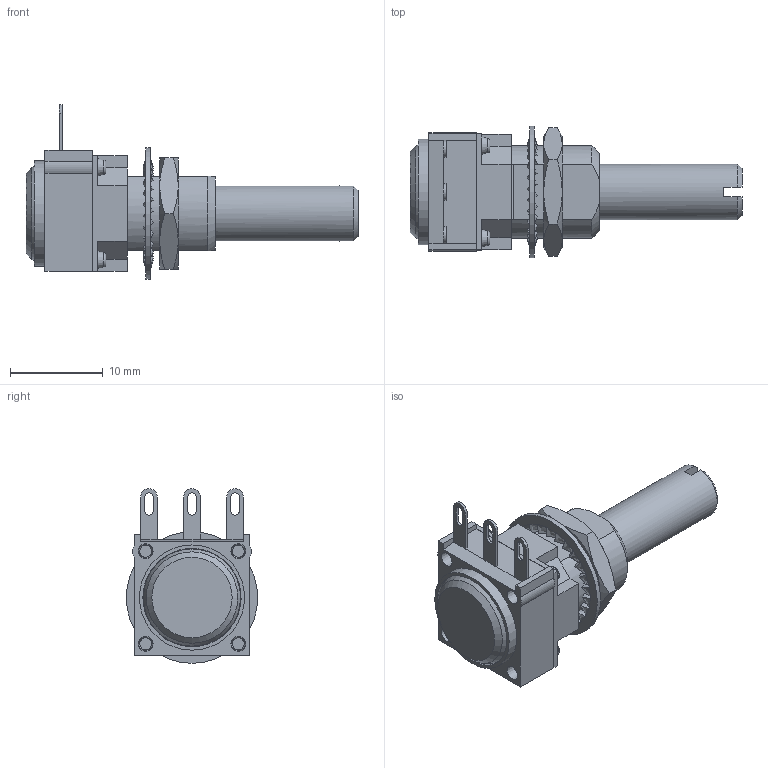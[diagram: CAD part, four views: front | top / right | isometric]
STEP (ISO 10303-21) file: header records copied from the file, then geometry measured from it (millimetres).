
FILE_DESCRIPTION( ( 'Unknown' ), '1' );
FILE_NAME( 'I:/Dev_Pots_Trimmers/01-Plans_Cao/P11/Step/P11S1V0FLSY00103KA.stp', 'Unknown', ( 'Unknown' ), ( 'Unknown' ), 'PSStep 15.0.49', 'Unknown', ' ' );
FILE_SCHEMA( ( 'AUTOMOTIVE_DESIGN { 1 0 10303 214 1 1 1 1 }' ) );
Length unit declared in the file: millimetre
Products named in the file (11): M1-Y00-103-oa0; 3650993; bande à chas; Assem1; 3653440; 3653020; 3650540; 3653200; 0685710
Assembly tree (10 placements, depth 3):
  Assem1
    3653440
    3653020
    3650540
    3653200
    0685710
    M1-Y00-103-oa0
      3650993
      bande à chas
      bande à chas
      bande à chas
Bounding box: 35.83 x 14.2 x 18.85 mm (x, y, z)
Volume: 2045.8 mm3; surface area: 3376.5 mm2
Topology: 9 solids, 9 shells, 673 faces, 1870 edges, 1233 vertices
Faces by surface type: plane 354, cylinder 154, bspline 112, cone 44, torus 9
Full cylindrical faces by diameter (mm): 1.3 x4, 1.5 x8, 1.55 x4, 3.4 x1, 3.97 x1, 4 x1, 4.1 x1, 5.25 x1, 5.6 x1, 6 x2, 6.4 x1, 7.42 x1, 7.44 x1, 8.4 x1, 9.188 x1, 9.65 x1, 10.6 x1, 11.35 x1, 14.2 x1
Entity records: 29112 total; most frequent: CARTESIAN_POINT 7533, ORIENTED_EDGE 3560, DIRECTION 2846, EDGE_CURVE 1780, VERTEX_POINT 1206, LINE 976, VECTOR 976, AXIS2_PLACEMENT_3D 935
